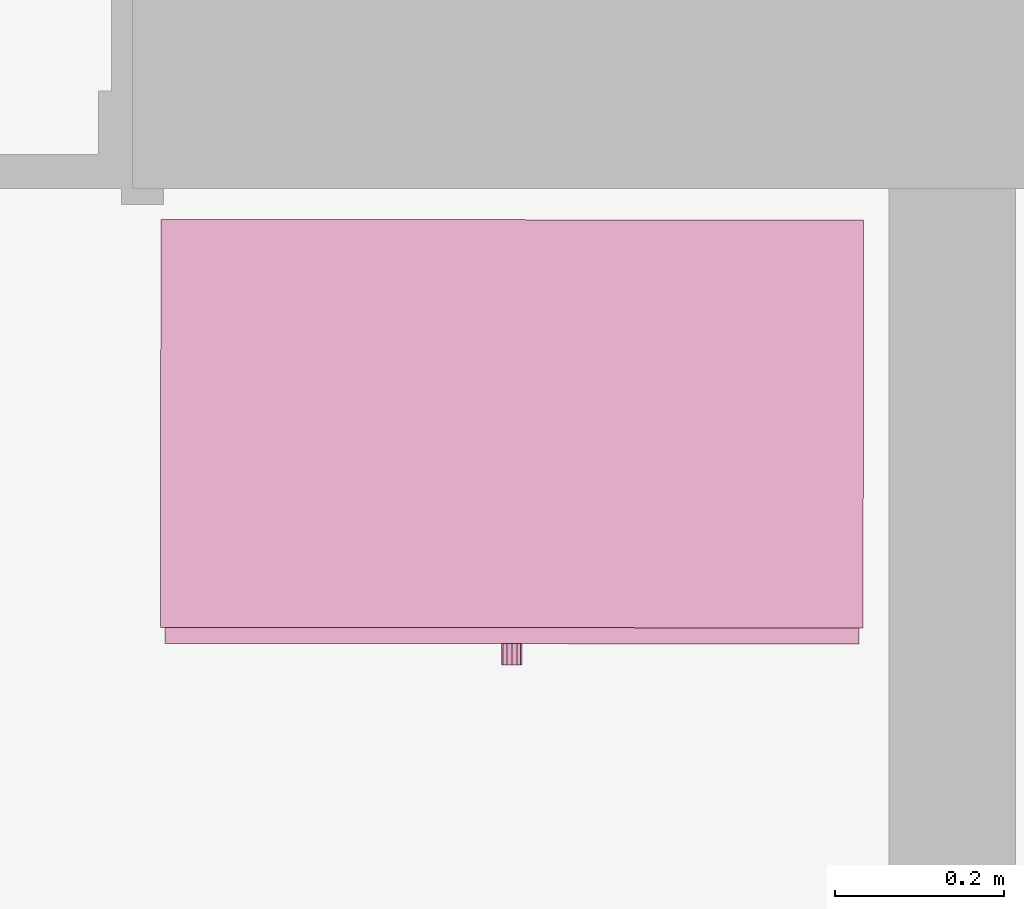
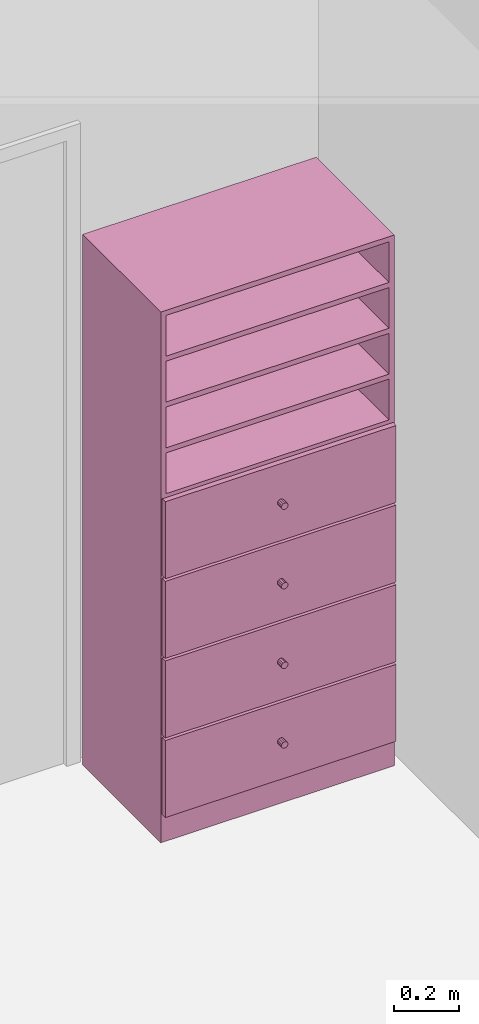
# One storey, part 165 of 194: 1 furnishing.
"""IFC2X3 building model written with IfcOpenShell, lengths in millimetres."""

from ifc_helpers import new_model, entity, si_unit, converted_unit, derived_unit, money_unit, direction, frame, origin_with_axes, place, context, subcontext, project, spatial, faceted_brep, type_object, element, save


model = new_model("IFC2X3")

# Units and contexts
model_context = context("Model", 3, precision=1e-05, world=origin_with_axes(), true_north=direction((0.0, 1.0)))
body_context = subcontext(model_context, "Body", "Model", "MODEL_VIEW")
ifc_project = project(units=[si_unit("LENGTHUNIT", "METRE", prefix="MILLI"), si_unit("AREAUNIT", "SQUARE_METRE"), si_unit("VOLUMEUNIT", "CUBIC_METRE"), converted_unit("PLANEANGLEUNIT", "DEGREE", entity("IfcPlaneAngleMeasure", 0.0174532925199), si_unit("PLANEANGLEUNIT", "RADIAN"), dimensions=[0, 0, 0, 0, 0, 0, 0]), si_unit("SOLIDANGLEUNIT", "STERADIAN"), money_unit("EUR"), converted_unit("TIMEUNIT", "Year", entity("IfcTimeMeasure", 31556926.0), si_unit("TIMEUNIT", "SECOND"), dimensions=[0, 0, 1, 0, 0, 0, 0]), si_unit("MASSUNIT", "GRAM", prefix="KILO"), si_unit("THERMODYNAMICTEMPERATUREUNIT", "DEGREE_CELSIUS"), si_unit("LUMINOUSINTENSITYUNIT", "LUMEN"), si_unit("ENERGYUNIT", "JOULE", prefix="MEGA"), derived_unit("THERMALCONDUCTANCEUNIT", [(si_unit("POWERUNIT", "WATT"), 1), (si_unit("LENGTHUNIT", "METRE"), -1), (si_unit("THERMODYNAMICTEMPERATUREUNIT", "KELVIN"), -1)]), derived_unit("SPECIFICHEATCAPACITYUNIT", [(si_unit("ENERGYUNIT", "JOULE"), 1), (si_unit("MASSUNIT", "GRAM", prefix="KILO"), -1), (si_unit("THERMODYNAMICTEMPERATUREUNIT", "KELVIN"), -1)]), derived_unit("MASSDENSITYUNIT", [(si_unit("MASSUNIT", "GRAM", prefix="KILO"), 1), (si_unit("VOLUMEUNIT", "CUBIC_METRE"), -1)])], contexts=[model_context])

# Site, building, storey
site_placement = place(None, origin_with_axes())
site = spatial("IfcSite", under=ifc_project, at=site_placement, Name="Site", CompositionType="ELEMENT")
building_placement = place(site_placement, origin_with_axes())
building = spatial("IfcBuilding", under=site, at=building_placement, Name="Building", CompositionType="ELEMENT")
storey_placement = place(building_placement, frame((0.0, 0.0, 3000.0), z_axis=(0.0, 0.0, 1.0), x_axis=(1.0, 0.0, 0.0)))
storey = spatial("IfcBuildingStorey", under=building, at=storey_placement, Name="2 KORRUS", CompositionType="ELEMENT", Elevation=3000.0)

# Furnishing
furnishing_element_type = type_object("IfcFurnishingElementType", Name="Model Element 63")
furnishing_placement = place(storey_placement, frame((42142.4627264, 40142.5515726, 0.0), z_axis=(0.0, 0.0, 1.0), x_axis=(0.999999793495, -0.000642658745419, 0.0)))
element("IfcFurnishingElement", 1, at=furnishing_placement, inside=storey, type_object=furnishing_element_type, Name="FU - 001", context=body_context, shape_type="Brep", body=[
    faceted_brep([(832.118796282, 19.0, 0.0), (0.0, 19.0, 0.0), (0.0, 502.132069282, 0.0), (832.118796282, 502.132069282, 0.0), (832.118796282, 19.0, 100.0), (0.0, 19.0, 100.0), (0.0, 502.132069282, 100.0), (832.118796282, 502.132069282, 100.0)], [[[0, 1, 2, 3]], [[1, 0, 4, 5]], [[2, 1, 5, 6]], [[3, 2, 6, 7]], [[0, 3, 7, 4]], [[5, 4, 7, 6]]]),
    faceted_brep([(19.0, 502.132069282, 119.0), (19.0, 483.132069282, 119.0), (19.0, 483.132069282, 1981.0), (19.0, 502.132069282, 1981.0), (813.118796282, 502.132069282, 119.0), (813.118796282, 483.132069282, 119.0), (813.118796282, 483.132069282, 1981.0), (813.118796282, 502.132069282, 1981.0)], [[[0, 1, 2, 3]], [[0, 4, 5, 1]], [[1, 5, 6, 2]], [[3, 2, 6, 7]], [[4, 0, 3, 7]], [[5, 4, 7, 6]]]),
    faceted_brep([(832.118796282, 19.0, 100.0), (813.118796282, 19.0, 100.0), (813.118796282, 502.132069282, 100.0), (832.118796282, 502.132069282, 100.0), (832.118796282, 19.0, 2000.0), (813.118796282, 19.0, 2000.0), (813.118796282, 502.132069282, 2000.0), (832.118796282, 502.132069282, 2000.0)], [[[0, 1, 2, 3]], [[1, 0, 4, 5]], [[2, 1, 5, 6]], [[3, 2, 6, 7]], [[0, 3, 7, 4]], [[5, 4, 7, 6]]]),
    faceted_brep([(19.0, 19.0, 100.0), (0.0, 19.0, 100.0), (0.0, 502.132069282, 100.0), (19.0, 502.132069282, 100.0), (19.0, 19.0, 2000.0), (0.0, 19.0, 2000.0), (0.0, 502.132069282, 2000.0), (19.0, 502.132069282, 2000.0)], [[[0, 1, 2, 3]], [[1, 0, 4, 5]], [[2, 1, 5, 6]], [[3, 2, 6, 7]], [[0, 3, 7, 4]], [[5, 4, 7, 6]]]),
    faceted_brep([(813.118796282, 19.0, 100.0), (19.0, 19.0, 100.0), (19.0, 502.132069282, 100.0), (813.118796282, 502.132069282, 100.0), (813.118796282, 19.0, 119.0), (19.0, 19.0, 119.0), (19.0, 502.132069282, 119.0), (813.118796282, 502.132069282, 119.0)], [[[0, 1, 2, 3]], [[1, 0, 4, 5]], [[2, 1, 5, 6]], [[3, 2, 6, 7]], [[0, 3, 7, 4]], [[5, 4, 7, 6]]]),
    faceted_brep([(813.118796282, 19.0, 1981.0), (19.0, 19.0, 1981.0), (19.0, 502.132069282, 1981.0), (813.118796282, 502.132069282, 1981.0), (813.118796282, 19.0, 2000.0), (19.0, 19.0, 2000.0), (19.0, 502.132069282, 2000.0), (813.118796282, 502.132069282, 2000.0)], [[[0, 1, 2, 3]], [[1, 0, 4, 5]], [[2, 1, 5, 6]], [[3, 2, 6, 7]], [[0, 3, 7, 4]], [[5, 4, 7, 6]]]),
    faceted_brep([(5.0, 19.0, 105.0), (827.118796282, 19.0, 105.0), (827.118796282, 0.0, 105.0), (5.0, 0.0, 105.0), (5.0, 19.0, 395.0), (827.118796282, 19.0, 395.0), (827.118796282, 0.0, 395.0), (5.0, 0.0, 395.0)], [[[0, 1, 2, 3]], [[0, 4, 5, 1]], [[1, 5, 6, 2]], [[3, 2, 6, 7]], [[4, 0, 3, 7]], [[5, 4, 7, 6]]]),
    faceted_brep([(426.451702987, 0.0, 244.0), (422.059398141, 0.0, 239.607695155), (416.059398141, 0.0, 238.0), (410.059398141, 0.0, 239.607695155), (405.667093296, 0.0, 244.0), (404.059398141, 0.0, 250.0), (405.667093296, 0.0, 256.0), (410.059398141, 0.0, 260.392304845), (416.059398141, 0.0, 262.0), (422.059398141, 0.0, 260.392304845), (426.451702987, 0.0, 256.0), (428.059398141, 0.0, 250.0), (426.451702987, -25.0, 244.0), (422.059398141, -25.0, 239.607695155), (416.059398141, -25.0, 238.0), (410.059398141, -25.0, 239.607695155), (405.667093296, -25.0, 244.0), (404.059398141, -25.0, 250.0), (405.667093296, -25.0, 256.0), (410.059398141, -25.0, 260.392304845), (416.059398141, -25.0, 262.0), (422.059398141, -25.0, 260.392304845), (426.451702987, -25.0, 256.0), (428.059398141, -25.0, 250.0)], [[[0, 1, 2, 3, 4, 5, 6, 7, 8, 9, 10, 11]], [[1, 0, 12, 13]], [[2, 1, 13, 14]], [[3, 2, 14, 15]], [[4, 3, 15, 16]], [[5, 4, 16, 17]], [[6, 5, 17, 18]], [[7, 6, 18, 19]], [[8, 7, 19, 20]], [[9, 8, 20, 21]], [[10, 9, 21, 22]], [[11, 10, 22, 23]], [[0, 11, 23, 12]], [[12, 23, 22, 21, 20, 19, 18, 17, 16, 15, 14, 13]]]),
    faceted_brep([(5.0, 19.0, 405.0), (827.118796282, 19.0, 405.0), (827.118796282, 0.0, 405.0), (5.0, 0.0, 405.0), (5.0, 19.0, 695.0), (827.118796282, 19.0, 695.0), (827.118796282, 0.0, 695.0), (5.0, 0.0, 695.0)], [[[0, 1, 2, 3]], [[0, 4, 5, 1]], [[1, 5, 6, 2]], [[3, 2, 6, 7]], [[4, 0, 3, 7]], [[5, 4, 7, 6]]]),
    faceted_brep([(426.451702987, 0.0, 544.0), (422.059398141, 0.0, 539.607695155), (416.059398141, 0.0, 538.0), (410.059398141, 0.0, 539.607695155), (405.667093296, 0.0, 544.0), (404.059398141, 0.0, 550.0), (405.667093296, 0.0, 556.0), (410.059398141, 0.0, 560.392304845), (416.059398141, 0.0, 562.0), (422.059398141, 0.0, 560.392304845), (426.451702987, 0.0, 556.0), (428.059398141, 0.0, 550.0), (426.451702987, -25.0, 544.0), (422.059398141, -25.0, 539.607695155), (416.059398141, -25.0, 538.0), (410.059398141, -25.0, 539.607695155), (405.667093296, -25.0, 544.0), (404.059398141, -25.0, 550.0), (405.667093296, -25.0, 556.0), (410.059398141, -25.0, 560.392304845), (416.059398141, -25.0, 562.0), (422.059398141, -25.0, 560.392304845), (426.451702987, -25.0, 556.0), (428.059398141, -25.0, 550.0)], [[[0, 1, 2, 3, 4, 5, 6, 7, 8, 9, 10, 11]], [[1, 0, 12, 13]], [[2, 1, 13, 14]], [[3, 2, 14, 15]], [[4, 3, 15, 16]], [[5, 4, 16, 17]], [[6, 5, 17, 18]], [[7, 6, 18, 19]], [[8, 7, 19, 20]], [[9, 8, 20, 21]], [[10, 9, 21, 22]], [[11, 10, 22, 23]], [[0, 11, 23, 12]], [[12, 23, 22, 21, 20, 19, 18, 17, 16, 15, 14, 13]]]),
    faceted_brep([(5.0, 19.0, 705.0), (827.118796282, 19.0, 705.0), (827.118796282, 0.0, 705.0), (5.0, 0.0, 705.0), (5.0, 19.0, 995.0), (827.118796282, 19.0, 995.0), (827.118796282, 0.0, 995.0), (5.0, 0.0, 995.0)], [[[0, 1, 2, 3]], [[0, 4, 5, 1]], [[1, 5, 6, 2]], [[3, 2, 6, 7]], [[4, 0, 3, 7]], [[5, 4, 7, 6]]]),
    faceted_brep([(426.451702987, 0.0, 844.0), (422.059398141, 0.0, 839.607695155), (416.059398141, 0.0, 838.0), (410.059398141, 0.0, 839.607695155), (405.667093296, 0.0, 844.0), (404.059398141, 0.0, 850.0), (405.667093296, 0.0, 856.0), (410.059398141, 0.0, 860.392304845), (416.059398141, 0.0, 862.0), (422.059398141, 0.0, 860.392304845), (426.451702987, 0.0, 856.0), (428.059398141, 0.0, 850.0), (426.451702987, -25.0, 844.0), (422.059398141, -25.0, 839.607695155), (416.059398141, -25.0, 838.0), (410.059398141, -25.0, 839.607695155), (405.667093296, -25.0, 844.0), (404.059398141, -25.0, 850.0), (405.667093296, -25.0, 856.0), (410.059398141, -25.0, 860.392304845), (416.059398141, -25.0, 862.0), (422.059398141, -25.0, 860.392304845), (426.451702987, -25.0, 856.0), (428.059398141, -25.0, 850.0)], [[[0, 1, 2, 3, 4, 5, 6, 7, 8, 9, 10, 11]], [[1, 0, 12, 13]], [[2, 1, 13, 14]], [[3, 2, 14, 15]], [[4, 3, 15, 16]], [[5, 4, 16, 17]], [[6, 5, 17, 18]], [[7, 6, 18, 19]], [[8, 7, 19, 20]], [[9, 8, 20, 21]], [[10, 9, 21, 22]], [[11, 10, 22, 23]], [[0, 11, 23, 12]], [[12, 23, 22, 21, 20, 19, 18, 17, 16, 15, 14, 13]]]),
    faceted_brep([(5.0, 19.0, 1005.0), (827.118796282, 19.0, 1005.0), (827.118796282, 0.0, 1005.0), (5.0, 0.0, 1005.0), (5.0, 19.0, 1295.0), (827.118796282, 19.0, 1295.0), (827.118796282, 0.0, 1295.0), (5.0, 0.0, 1295.0)], [[[0, 1, 2, 3]], [[0, 4, 5, 1]], [[1, 5, 6, 2]], [[3, 2, 6, 7]], [[4, 0, 3, 7]], [[5, 4, 7, 6]]]),
    faceted_brep([(426.451702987, 0.0, 1144.0), (422.059398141, 0.0, 1139.60769515), (416.059398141, 0.0, 1138.0), (410.059398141, 0.0, 1139.60769515), (405.667093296, 0.0, 1144.0), (404.059398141, 0.0, 1150.0), (405.667093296, 0.0, 1156.0), (410.059398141, 0.0, 1160.39230485), (416.059398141, 0.0, 1162.0), (422.059398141, 0.0, 1160.39230485), (426.451702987, 0.0, 1156.0), (428.059398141, 0.0, 1150.0), (426.451702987, -25.0, 1144.0), (422.059398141, -25.0, 1139.60769515), (416.059398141, -25.0, 1138.0), (410.059398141, -25.0, 1139.60769515), (405.667093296, -25.0, 1144.0), (404.059398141, -25.0, 1150.0), (405.667093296, -25.0, 1156.0), (410.059398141, -25.0, 1160.39230485), (416.059398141, -25.0, 1162.0), (422.059398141, -25.0, 1160.39230485), (426.451702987, -25.0, 1156.0), (428.059398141, -25.0, 1150.0)], [[[0, 1, 2, 3, 4, 5, 6, 7, 8, 9, 10, 11]], [[1, 0, 12, 13]], [[2, 1, 13, 14]], [[3, 2, 14, 15]], [[4, 3, 15, 16]], [[5, 4, 16, 17]], [[6, 5, 17, 18]], [[7, 6, 18, 19]], [[8, 7, 19, 20]], [[9, 8, 20, 21]], [[10, 9, 21, 22]], [[11, 10, 22, 23]], [[0, 11, 23, 12]], [[12, 23, 22, 21, 20, 19, 18, 17, 16, 15, 14, 13]]]),
    faceted_brep([(19.0, 19.0, 390.5), (813.118796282, 19.0, 390.5), (813.118796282, 19.0, 409.5), (19.0, 19.0, 409.5), (19.0, 483.132069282, 390.5), (813.118796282, 483.132069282, 390.5), (813.118796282, 483.132069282, 409.5), (19.0, 483.132069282, 409.5)], [[[0, 1, 2, 3]], [[0, 4, 5, 1]], [[1, 5, 6, 2]], [[3, 2, 6, 7]], [[4, 0, 3, 7]], [[5, 4, 7, 6]]]),
    faceted_brep([(19.0, 19.0, 690.5), (813.118796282, 19.0, 690.5), (813.118796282, 19.0, 709.5), (19.0, 19.0, 709.5), (19.0, 483.132069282, 690.5), (813.118796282, 483.132069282, 690.5), (813.118796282, 483.132069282, 709.5), (19.0, 483.132069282, 709.5)], [[[0, 1, 2, 3]], [[0, 4, 5, 1]], [[1, 5, 6, 2]], [[3, 2, 6, 7]], [[4, 0, 3, 7]], [[5, 4, 7, 6]]]),
    faceted_brep([(19.0, 19.0, 990.5), (813.118796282, 19.0, 990.5), (813.118796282, 19.0, 1009.5), (19.0, 19.0, 1009.5), (19.0, 483.132069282, 990.5), (813.118796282, 483.132069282, 990.5), (813.118796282, 483.132069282, 1009.5), (19.0, 483.132069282, 1009.5)], [[[0, 1, 2, 3]], [[0, 4, 5, 1]], [[1, 5, 6, 2]], [[3, 2, 6, 7]], [[4, 0, 3, 7]], [[5, 4, 7, 6]]]),
    faceted_brep([(19.0, 19.0, 1290.5), (813.118796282, 19.0, 1290.5), (813.118796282, 19.0, 1309.5), (19.0, 19.0, 1309.5), (19.0, 483.132069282, 1290.5), (813.118796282, 483.132069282, 1290.5), (813.118796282, 483.132069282, 1309.5), (19.0, 483.132069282, 1309.5)], [[[0, 1, 2, 3]], [[0, 4, 5, 1]], [[1, 5, 6, 2]], [[3, 2, 6, 7]], [[4, 0, 3, 7]], [[5, 4, 7, 6]]]),
    faceted_brep([(813.118796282, 19.0, 1463.125), (19.0, 19.0, 1463.125), (19.0, 483.132069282, 1463.125), (813.118796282, 483.132069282, 1463.125), (813.118796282, 19.0, 1482.125), (19.0, 19.0, 1482.125), (19.0, 483.132069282, 1482.125), (813.118796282, 483.132069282, 1482.125)], [[[0, 1, 2, 3]], [[1, 0, 4, 5]], [[2, 1, 5, 6]], [[3, 2, 6, 7]], [[0, 3, 7, 4]], [[5, 4, 7, 6]]]),
    faceted_brep([(813.118796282, 19.0, 1635.75), (19.0, 19.0, 1635.75), (19.0, 483.132069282, 1635.75), (813.118796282, 483.132069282, 1635.75), (813.118796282, 19.0, 1654.75), (19.0, 19.0, 1654.75), (19.0, 483.132069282, 1654.75), (813.118796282, 483.132069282, 1654.75)], [[[0, 1, 2, 3]], [[1, 0, 4, 5]], [[2, 1, 5, 6]], [[3, 2, 6, 7]], [[0, 3, 7, 4]], [[5, 4, 7, 6]]]),
    faceted_brep([(813.118796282, 19.0, 1808.375), (19.0, 19.0, 1808.375), (19.0, 483.132069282, 1808.375), (813.118796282, 483.132069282, 1808.375), (813.118796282, 19.0, 1827.375), (19.0, 19.0, 1827.375), (19.0, 483.132069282, 1827.375), (813.118796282, 483.132069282, 1827.375)], [[[0, 1, 2, 3]], [[1, 0, 4, 5]], [[2, 1, 5, 6]], [[3, 2, 6, 7]], [[0, 3, 7, 4]], [[5, 4, 7, 6]]]),
])

save(model, "model.ifc")
